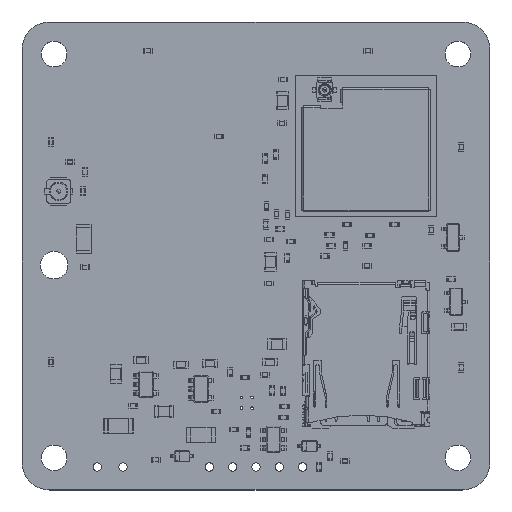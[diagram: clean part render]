
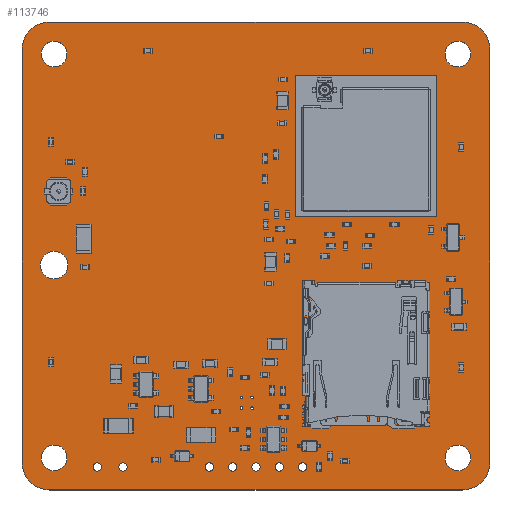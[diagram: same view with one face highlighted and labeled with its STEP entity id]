
A CAD part, top view. The second image highlights one B-rep face of the part: STEP entity #113746.
In plain terms, the highlighted planar face has unit normal (0, 0, 1).
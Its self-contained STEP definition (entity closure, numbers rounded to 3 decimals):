
#113421 = VERTEX_POINT('',#113422);
#113422 = CARTESIAN_POINT('',(122.5,25.5,1.51));
#113428 = EDGE_CURVE('',#113421,#113429,#113431,.T.);
#113429 = VERTEX_POINT('',#113430);
#113430 = CARTESIAN_POINT('',(125.5,22.5,1.51));
#113431 = CIRCLE('',#113432,3.);
#113432 = AXIS2_PLACEMENT_3D('',#113433,#113434,#113435);
#113433 = CARTESIAN_POINT('',(122.5,22.5,1.51));
#113434 = DIRECTION('',(0.,0.,-1.));
#113435 = DIRECTION('',(0.,1.,0.));
#113463 = VERTEX_POINT('',#113464);
#113464 = CARTESIAN_POINT('',(77.5,25.5,1.51));
#113470 = EDGE_CURVE('',#113463,#113421,#113471,.T.);
#113471 = LINE('',#113472,#113473);
#113472 = CARTESIAN_POINT('',(77.5,25.5,1.51));
#113473 = VECTOR('',#113474,1.);
#113474 = DIRECTION('',(1.,0.,0.));
#113492 = EDGE_CURVE('',#113429,#113493,#113495,.T.);
#113493 = VERTEX_POINT('',#113494);
#113494 = CARTESIAN_POINT('',(125.5,-22.5,1.51));
#113495 = LINE('',#113496,#113497);
#113496 = CARTESIAN_POINT('',(125.5,22.5,1.51));
#113497 = VECTOR('',#113498,1.);
#113498 = DIRECTION('',(0.,-1.,0.));
#113746 = ADVANCED_FACE('',(#113747,#113793,#113804,#113815,#113826,
    #113837,#113848,#113859,#113870,#113881,#113892,#113903,#113914,
    #113925,#113936,#113947,#113958),#113969,.T.);
#113747 = FACE_BOUND('',#113748,.T.);
#113748 = EDGE_LOOP('',(#113749,#113750,#113751,#113760,#113768,#113777,
    #113785,#113792));
#113749 = ORIENTED_EDGE('',*,*,#113428,.F.);
#113750 = ORIENTED_EDGE('',*,*,#113470,.F.);
#113751 = ORIENTED_EDGE('',*,*,#113752,.F.);
#113752 = EDGE_CURVE('',#113753,#113463,#113755,.T.);
#113753 = VERTEX_POINT('',#113754);
#113754 = CARTESIAN_POINT('',(74.5,22.5,1.51));
#113755 = CIRCLE('',#113756,3.);
#113756 = AXIS2_PLACEMENT_3D('',#113757,#113758,#113759);
#113757 = CARTESIAN_POINT('',(77.5,22.5,1.51));
#113758 = DIRECTION('',(0.,0.,-1.));
#113759 = DIRECTION('',(-1.,0.,0.));
#113760 = ORIENTED_EDGE('',*,*,#113761,.F.);
#113761 = EDGE_CURVE('',#113762,#113753,#113764,.T.);
#113762 = VERTEX_POINT('',#113763);
#113763 = CARTESIAN_POINT('',(74.5,-22.5,1.51));
#113764 = LINE('',#113765,#113766);
#113765 = CARTESIAN_POINT('',(74.5,-22.5,1.51));
#113766 = VECTOR('',#113767,1.);
#113767 = DIRECTION('',(0.,1.,0.));
#113768 = ORIENTED_EDGE('',*,*,#113769,.F.);
#113769 = EDGE_CURVE('',#113770,#113762,#113772,.T.);
#113770 = VERTEX_POINT('',#113771);
#113771 = CARTESIAN_POINT('',(77.5,-25.5,1.51));
#113772 = CIRCLE('',#113773,3.);
#113773 = AXIS2_PLACEMENT_3D('',#113774,#113775,#113776);
#113774 = CARTESIAN_POINT('',(77.5,-22.5,1.51));
#113775 = DIRECTION('',(0.,0.,-1.));
#113776 = DIRECTION('',(0.,-1.,-0.));
#113777 = ORIENTED_EDGE('',*,*,#113778,.F.);
#113778 = EDGE_CURVE('',#113779,#113770,#113781,.T.);
#113779 = VERTEX_POINT('',#113780);
#113780 = CARTESIAN_POINT('',(122.5,-25.5,1.51));
#113781 = LINE('',#113782,#113783);
#113782 = CARTESIAN_POINT('',(122.5,-25.5,1.51));
#113783 = VECTOR('',#113784,1.);
#113784 = DIRECTION('',(-1.,0.,0.));
#113785 = ORIENTED_EDGE('',*,*,#113786,.F.);
#113786 = EDGE_CURVE('',#113493,#113779,#113787,.T.);
#113787 = CIRCLE('',#113788,3.);
#113788 = AXIS2_PLACEMENT_3D('',#113789,#113790,#113791);
#113789 = CARTESIAN_POINT('',(122.5,-22.5,1.51));
#113790 = DIRECTION('',(0.,0.,-1.));
#113791 = DIRECTION('',(1.,0.,0.));
#113792 = ORIENTED_EDGE('',*,*,#113492,.F.);
#113793 = FACE_BOUND('',#113794,.T.);
#113794 = EDGE_LOOP('',(#113795));
#113795 = ORIENTED_EDGE('',*,*,#113796,.T.);
#113796 = EDGE_CURVE('',#113797,#113797,#113799,.T.);
#113797 = VERTEX_POINT('',#113798);
#113798 = CARTESIAN_POINT('',(78.,-23.4,1.51));
#113799 = CIRCLE('',#113800,1.4);
#113800 = AXIS2_PLACEMENT_3D('',#113801,#113802,#113803);
#113801 = CARTESIAN_POINT('',(78.,-22.,1.51));
#113802 = DIRECTION('',(-0.,0.,-1.));
#113803 = DIRECTION('',(-0.,-1.,0.));
#113804 = FACE_BOUND('',#113805,.T.);
#113805 = EDGE_LOOP('',(#113806));
#113806 = ORIENTED_EDGE('',*,*,#113807,.T.);
#113807 = EDGE_CURVE('',#113808,#113808,#113810,.T.);
#113808 = VERTEX_POINT('',#113809);
#113809 = CARTESIAN_POINT('',(82.7,-23.45,1.51));
#113810 = CIRCLE('',#113811,0.45);
#113811 = AXIS2_PLACEMENT_3D('',#113812,#113813,#113814);
#113812 = CARTESIAN_POINT('',(82.7,-23.,1.51));
#113813 = DIRECTION('',(-0.,0.,-1.));
#113814 = DIRECTION('',(-0.,-1.,0.));
#113815 = FACE_BOUND('',#113816,.T.);
#113816 = EDGE_LOOP('',(#113817));
#113817 = ORIENTED_EDGE('',*,*,#113818,.T.);
#113818 = EDGE_CURVE('',#113819,#113819,#113821,.T.);
#113819 = VERTEX_POINT('',#113820);
#113820 = CARTESIAN_POINT('',(85.5,-23.45,1.51));
#113821 = CIRCLE('',#113822,0.45);
#113822 = AXIS2_PLACEMENT_3D('',#113823,#113824,#113825);
#113823 = CARTESIAN_POINT('',(85.5,-23.,1.51));
#113824 = DIRECTION('',(-0.,0.,-1.));
#113825 = DIRECTION('',(-0.,-1.,0.));
#113826 = FACE_BOUND('',#113827,.T.);
#113827 = EDGE_LOOP('',(#113828));
#113828 = ORIENTED_EDGE('',*,*,#113829,.T.);
#113829 = EDGE_CURVE('',#113830,#113830,#113832,.T.);
#113830 = VERTEX_POINT('',#113831);
#113831 = CARTESIAN_POINT('',(94.92,-23.45,1.51));
#113832 = CIRCLE('',#113833,0.45);
#113833 = AXIS2_PLACEMENT_3D('',#113834,#113835,#113836);
#113834 = CARTESIAN_POINT('',(94.92,-23.,1.51));
#113835 = DIRECTION('',(-0.,0.,-1.));
#113836 = DIRECTION('',(-0.,-1.,0.));
#113837 = FACE_BOUND('',#113838,.T.);
#113838 = EDGE_LOOP('',(#113839));
#113839 = ORIENTED_EDGE('',*,*,#113840,.T.);
#113840 = EDGE_CURVE('',#113841,#113841,#113843,.T.);
#113841 = VERTEX_POINT('',#113842);
#113842 = CARTESIAN_POINT('',(97.46,-23.45,1.51));
#113843 = CIRCLE('',#113844,0.45);
#113844 = AXIS2_PLACEMENT_3D('',#113845,#113846,#113847);
#113845 = CARTESIAN_POINT('',(97.46,-23.,1.51));
#113846 = DIRECTION('',(-0.,0.,-1.));
#113847 = DIRECTION('',(0.,-1.,0.));
#113848 = FACE_BOUND('',#113849,.T.);
#113849 = EDGE_LOOP('',(#113850));
#113850 = ORIENTED_EDGE('',*,*,#113851,.T.);
#113851 = EDGE_CURVE('',#113852,#113852,#113854,.T.);
#113852 = VERTEX_POINT('',#113853);
#113853 = CARTESIAN_POINT('',(98.41,-16.74,1.51));
#113854 = CIRCLE('',#113855,0.15);
#113855 = AXIS2_PLACEMENT_3D('',#113856,#113857,#113858);
#113856 = CARTESIAN_POINT('',(98.41,-16.59,1.51));
#113857 = DIRECTION('',(-0.,0.,-1.));
#113858 = DIRECTION('',(-0.,-1.,0.));
#113859 = FACE_BOUND('',#113860,.T.);
#113860 = EDGE_LOOP('',(#113861));
#113861 = ORIENTED_EDGE('',*,*,#113862,.T.);
#113862 = EDGE_CURVE('',#113863,#113863,#113865,.T.);
#113863 = VERTEX_POINT('',#113864);
#113864 = CARTESIAN_POINT('',(99.59,-16.74,1.51));
#113865 = CIRCLE('',#113866,0.15);
#113866 = AXIS2_PLACEMENT_3D('',#113867,#113868,#113869);
#113867 = CARTESIAN_POINT('',(99.59,-16.59,1.51));
#113868 = DIRECTION('',(-0.,0.,-1.));
#113869 = DIRECTION('',(-0.,-1.,0.));
#113870 = FACE_BOUND('',#113871,.T.);
#113871 = EDGE_LOOP('',(#113872));
#113872 = ORIENTED_EDGE('',*,*,#113873,.T.);
#113873 = EDGE_CURVE('',#113874,#113874,#113876,.T.);
#113874 = VERTEX_POINT('',#113875);
#113875 = CARTESIAN_POINT('',(98.41,-15.56,1.51));
#113876 = CIRCLE('',#113877,0.15);
#113877 = AXIS2_PLACEMENT_3D('',#113878,#113879,#113880);
#113878 = CARTESIAN_POINT('',(98.41,-15.41,1.51));
#113879 = DIRECTION('',(-0.,0.,-1.));
#113880 = DIRECTION('',(-0.,-1.,0.));
#113881 = FACE_BOUND('',#113882,.T.);
#113882 = EDGE_LOOP('',(#113883));
#113883 = ORIENTED_EDGE('',*,*,#113884,.T.);
#113884 = EDGE_CURVE('',#113885,#113885,#113887,.T.);
#113885 = VERTEX_POINT('',#113886);
#113886 = CARTESIAN_POINT('',(99.59,-15.56,1.51));
#113887 = CIRCLE('',#113888,0.15);
#113888 = AXIS2_PLACEMENT_3D('',#113889,#113890,#113891);
#113889 = CARTESIAN_POINT('',(99.59,-15.41,1.51));
#113890 = DIRECTION('',(-0.,0.,-1.));
#113891 = DIRECTION('',(-0.,-1.,0.));
#113892 = FACE_BOUND('',#113893,.T.);
#113893 = EDGE_LOOP('',(#113894));
#113894 = ORIENTED_EDGE('',*,*,#113895,.T.);
#113895 = EDGE_CURVE('',#113896,#113896,#113898,.T.);
#113896 = VERTEX_POINT('',#113897);
#113897 = CARTESIAN_POINT('',(78.,-2.5,1.51));
#113898 = CIRCLE('',#113899,1.5);
#113899 = AXIS2_PLACEMENT_3D('',#113900,#113901,#113902);
#113900 = CARTESIAN_POINT('',(78.,-1.,1.51));
#113901 = DIRECTION('',(-0.,0.,-1.));
#113902 = DIRECTION('',(-0.,-1.,0.));
#113903 = FACE_BOUND('',#113904,.T.);
#113904 = EDGE_LOOP('',(#113905));
#113905 = ORIENTED_EDGE('',*,*,#113906,.T.);
#113906 = EDGE_CURVE('',#113907,#113907,#113909,.T.);
#113907 = VERTEX_POINT('',#113908);
#113908 = CARTESIAN_POINT('',(100.,-23.45,1.51));
#113909 = CIRCLE('',#113910,0.45);
#113910 = AXIS2_PLACEMENT_3D('',#113911,#113912,#113913);
#113911 = CARTESIAN_POINT('',(100.,-23.,1.51));
#113912 = DIRECTION('',(-0.,0.,-1.));
#113913 = DIRECTION('',(-0.,-1.,0.));
#113914 = FACE_BOUND('',#113915,.T.);
#113915 = EDGE_LOOP('',(#113916));
#113916 = ORIENTED_EDGE('',*,*,#113917,.T.);
#113917 = EDGE_CURVE('',#113918,#113918,#113920,.T.);
#113918 = VERTEX_POINT('',#113919);
#113919 = CARTESIAN_POINT('',(102.54,-23.45,1.51));
#113920 = CIRCLE('',#113921,0.45);
#113921 = AXIS2_PLACEMENT_3D('',#113922,#113923,#113924);
#113922 = CARTESIAN_POINT('',(102.54,-23.,1.51));
#113923 = DIRECTION('',(-0.,0.,-1.));
#113924 = DIRECTION('',(0.,-1.,-0.));
#113925 = FACE_BOUND('',#113926,.T.);
#113926 = EDGE_LOOP('',(#113927));
#113927 = ORIENTED_EDGE('',*,*,#113928,.T.);
#113928 = EDGE_CURVE('',#113929,#113929,#113931,.T.);
#113929 = VERTEX_POINT('',#113930);
#113930 = CARTESIAN_POINT('',(105.08,-23.45,1.51));
#113931 = CIRCLE('',#113932,0.45);
#113932 = AXIS2_PLACEMENT_3D('',#113933,#113934,#113935);
#113933 = CARTESIAN_POINT('',(105.08,-23.,1.51));
#113934 = DIRECTION('',(-0.,0.,-1.));
#113935 = DIRECTION('',(-0.,-1.,0.));
#113936 = FACE_BOUND('',#113937,.T.);
#113937 = EDGE_LOOP('',(#113938));
#113938 = ORIENTED_EDGE('',*,*,#113939,.T.);
#113939 = EDGE_CURVE('',#113940,#113940,#113942,.T.);
#113940 = VERTEX_POINT('',#113941);
#113941 = CARTESIAN_POINT('',(122.,-23.4,1.51));
#113942 = CIRCLE('',#113943,1.4);
#113943 = AXIS2_PLACEMENT_3D('',#113944,#113945,#113946);
#113944 = CARTESIAN_POINT('',(122.,-22.,1.51));
#113945 = DIRECTION('',(-0.,0.,-1.));
#113946 = DIRECTION('',(-0.,-1.,0.));
#113947 = FACE_BOUND('',#113948,.T.);
#113948 = EDGE_LOOP('',(#113949));
#113949 = ORIENTED_EDGE('',*,*,#113950,.T.);
#113950 = EDGE_CURVE('',#113951,#113951,#113953,.T.);
#113951 = VERTEX_POINT('',#113952);
#113952 = CARTESIAN_POINT('',(78.,20.6,1.51));
#113953 = CIRCLE('',#113954,1.4);
#113954 = AXIS2_PLACEMENT_3D('',#113955,#113956,#113957);
#113955 = CARTESIAN_POINT('',(78.,22.,1.51));
#113956 = DIRECTION('',(-0.,0.,-1.));
#113957 = DIRECTION('',(-0.,-1.,0.));
#113958 = FACE_BOUND('',#113959,.T.);
#113959 = EDGE_LOOP('',(#113960));
#113960 = ORIENTED_EDGE('',*,*,#113961,.T.);
#113961 = EDGE_CURVE('',#113962,#113962,#113964,.T.);
#113962 = VERTEX_POINT('',#113963);
#113963 = CARTESIAN_POINT('',(122.,20.6,1.51));
#113964 = CIRCLE('',#113965,1.4);
#113965 = AXIS2_PLACEMENT_3D('',#113966,#113967,#113968);
#113966 = CARTESIAN_POINT('',(122.,22.,1.51));
#113967 = DIRECTION('',(-0.,0.,-1.));
#113968 = DIRECTION('',(-0.,-1.,0.));
#113969 = PLANE('',#113970);
#113970 = AXIS2_PLACEMENT_3D('',#113971,#113972,#113973);
#113971 = CARTESIAN_POINT('',(0.,0.,1.51));
#113972 = DIRECTION('',(0.,0.,1.));
#113973 = DIRECTION('',(1.,0.,-0.));
